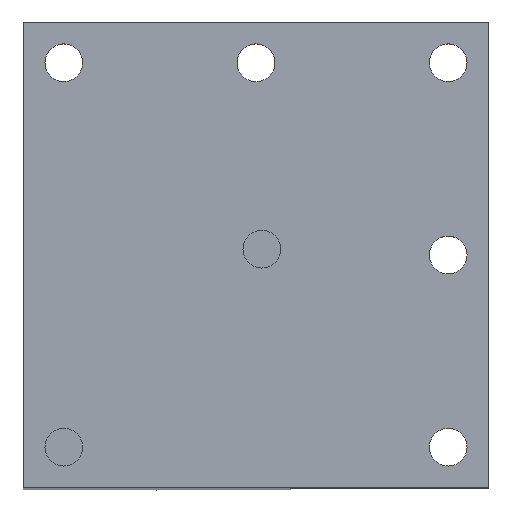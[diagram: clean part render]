
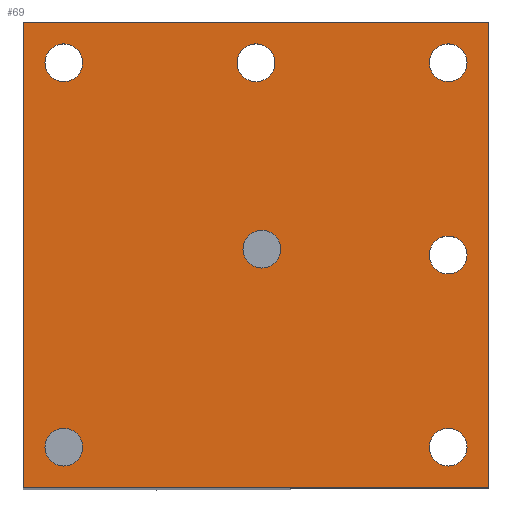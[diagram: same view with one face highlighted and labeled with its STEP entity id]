
A CAD part, top view. The second image highlights one B-rep face of the part: STEP entity #69.
In plain terms, the highlighted planar face has unit normal (0, 0, 1).
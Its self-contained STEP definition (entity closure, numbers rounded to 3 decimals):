
#69 = ADVANCED_FACE( '', ( #147, #148, #149, #150, #151, #152, #153, #154 ), #155, .T. );
#147 = FACE_BOUND( '', #243, .T. );
#148 = FACE_BOUND( '', #244, .T. );
#149 = FACE_OUTER_BOUND( '', #245, .T. );
#150 = FACE_BOUND( '', #246, .T. );
#151 = FACE_BOUND( '', #247, .T. );
#152 = FACE_BOUND( '', #248, .T. );
#153 = FACE_BOUND( '', #249, .T. );
#154 = FACE_BOUND( '', #250, .T. );
#155 = PLANE( '', #251 );
#243 = EDGE_LOOP( '', ( #377 ) );
#244 = EDGE_LOOP( '', ( #378 ) );
#245 = EDGE_LOOP( '', ( #379, #380, #381, #382 ) );
#246 = EDGE_LOOP( '', ( #383 ) );
#247 = EDGE_LOOP( '', ( #384 ) );
#248 = EDGE_LOOP( '', ( #385 ) );
#249 = EDGE_LOOP( '', ( #386 ) );
#250 = EDGE_LOOP( '', ( #387 ) );
#251 = AXIS2_PLACEMENT_3D( '', #388, #389, #390 );
#377 = ORIENTED_EDGE( '', *, *, #514, .F. );
#378 = ORIENTED_EDGE( '', *, *, #515, .F. );
#379 = ORIENTED_EDGE( '', *, *, #497, .T. );
#380 = ORIENTED_EDGE( '', *, *, #516, .T. );
#381 = ORIENTED_EDGE( '', *, *, #517, .T. );
#382 = ORIENTED_EDGE( '', *, *, #505, .T. );
#383 = ORIENTED_EDGE( '', *, *, #477, .F. );
#384 = ORIENTED_EDGE( '', *, *, #518, .F. );
#385 = ORIENTED_EDGE( '', *, *, #519, .F. );
#386 = ORIENTED_EDGE( '', *, *, #486, .F. );
#387 = ORIENTED_EDGE( '', *, *, #489, .F. );
#388 = CARTESIAN_POINT( '', ( 0., 0., 0. ) );
#389 = DIRECTION( '', ( 0., 0., 1. ) );
#390 = DIRECTION( '', ( 1., 0., 0. ) );
#477 = EDGE_CURVE( '', #545, #545, #546, .T. );
#486 = EDGE_CURVE( '', #561, #561, #562, .T. );
#489 = EDGE_CURVE( '', #566, #566, #567, .T. );
#497 = EDGE_CURVE( '', #579, #577, #580, .T. );
#505 = EDGE_CURVE( '', #590, #579, #591, .T. );
#514 = EDGE_CURVE( '', #602, #602, #603, .T. );
#515 = EDGE_CURVE( '', #604, #604, #605, .T. );
#516 = EDGE_CURVE( '', #577, #606, #607, .T. );
#517 = EDGE_CURVE( '', #606, #590, #608, .T. );
#518 = EDGE_CURVE( '', #609, #609, #610, .T. );
#519 = EDGE_CURVE( '', #611, #611, #612, .T. );
#545 = VERTEX_POINT( '', #645 );
#546 = CIRCLE( '', #646, 3.24 );
#561 = VERTEX_POINT( '', #666 );
#562 = CIRCLE( '', #667, 3.24 );
#566 = VERTEX_POINT( '', #671 );
#567 = CIRCLE( '', #672, 3.24 );
#577 = VERTEX_POINT( '', #683 );
#579 = VERTEX_POINT( '', #686 );
#580 = LINE( '', #687, #688 );
#590 = VERTEX_POINT( '', #702 );
#591 = LINE( '', #703, #704 );
#602 = VERTEX_POINT( '', #718 );
#603 = CIRCLE( '', #719, 3.24 );
#604 = VERTEX_POINT( '', #720 );
#605 = CIRCLE( '', #721, 3.24 );
#606 = VERTEX_POINT( '', #722 );
#607 = LINE( '', #723, #724 );
#608 = LINE( '', #725, #726 );
#609 = VERTEX_POINT( '', #727 );
#610 = CIRCLE( '', #728, 3.24 );
#611 = VERTEX_POINT( '', #729 );
#612 = CIRCLE( '', #730, 3.24 );
#645 = CARTESIAN_POINT( '', ( -62.76, 0., 0. ) );
#646 = AXIS2_PLACEMENT_3D( '', #770, #771, #772 );
#666 = CARTESIAN_POINT( '', ( 3.24, -33., 0. ) );
#667 = AXIS2_PLACEMENT_3D( '', #781, #782, #783 );
#671 = CARTESIAN_POINT( '', ( 3.24, 0., 0. ) );
#672 = AXIS2_PLACEMENT_3D( '', #787, #788, #789 );
#683 = CARTESIAN_POINT( '', ( -73., -73., 0. ) );
#686 = CARTESIAN_POINT( '', ( -73., 7., 0. ) );
#687 = CARTESIAN_POINT( '', ( -73., 7., 0. ) );
#688 = VECTOR( '', #798, 1000. );
#702 = CARTESIAN_POINT( '', ( 7., 7., 0. ) );
#703 = CARTESIAN_POINT( '', ( 7., 7., 0. ) );
#704 = VECTOR( '', #806, 1000. );
#718 = CARTESIAN_POINT( '', ( -62.76, -66., 0. ) );
#719 = AXIS2_PLACEMENT_3D( '', #816, #817, #818 );
#720 = CARTESIAN_POINT( '', ( -28.76, -32., 0. ) );
#721 = AXIS2_PLACEMENT_3D( '', #819, #820, #821 );
#722 = CARTESIAN_POINT( '', ( 7., -73., 0. ) );
#723 = CARTESIAN_POINT( '', ( -73., -73., 0. ) );
#724 = VECTOR( '', #822, 1000. );
#725 = CARTESIAN_POINT( '', ( 7., -73., 0. ) );
#726 = VECTOR( '', #823, 1000. );
#727 = CARTESIAN_POINT( '', ( -29.76, 0., 0. ) );
#728 = AXIS2_PLACEMENT_3D( '', #824, #825, #826 );
#729 = CARTESIAN_POINT( '', ( 3.24, -66., 0. ) );
#730 = AXIS2_PLACEMENT_3D( '', #827, #828, #829 );
#770 = CARTESIAN_POINT( '', ( -66., 0., 0. ) );
#771 = DIRECTION( '', ( 0., 0., 1. ) );
#772 = DIRECTION( '', ( 1., 0., 0. ) );
#781 = CARTESIAN_POINT( '', ( 0., -33., 0. ) );
#782 = DIRECTION( '', ( 0., 0., 1. ) );
#783 = DIRECTION( '', ( 1., 0., 0. ) );
#787 = CARTESIAN_POINT( '', ( 0., 0., 0. ) );
#788 = DIRECTION( '', ( 0., 0., 1. ) );
#789 = DIRECTION( '', ( 1., 0., 0. ) );
#798 = DIRECTION( '', ( 0., -1., 0. ) );
#806 = DIRECTION( '', ( -1., 0., 0. ) );
#816 = CARTESIAN_POINT( '', ( -66., -66., 0. ) );
#817 = DIRECTION( '', ( 0., 0., 1. ) );
#818 = DIRECTION( '', ( 1., 0., 0. ) );
#819 = CARTESIAN_POINT( '', ( -32., -32., 0. ) );
#820 = DIRECTION( '', ( 0., 0., 1. ) );
#821 = DIRECTION( '', ( 1., 0., 0. ) );
#822 = DIRECTION( '', ( 1., 0., 0. ) );
#823 = DIRECTION( '', ( 0., 1., 0. ) );
#824 = CARTESIAN_POINT( '', ( -33., 0., 0. ) );
#825 = DIRECTION( '', ( 0., 0., 1. ) );
#826 = DIRECTION( '', ( 1., 0., 0. ) );
#827 = CARTESIAN_POINT( '', ( 0., -66., 0. ) );
#828 = DIRECTION( '', ( 0., 0., 1. ) );
#829 = DIRECTION( '', ( 1., 0., 0. ) );
